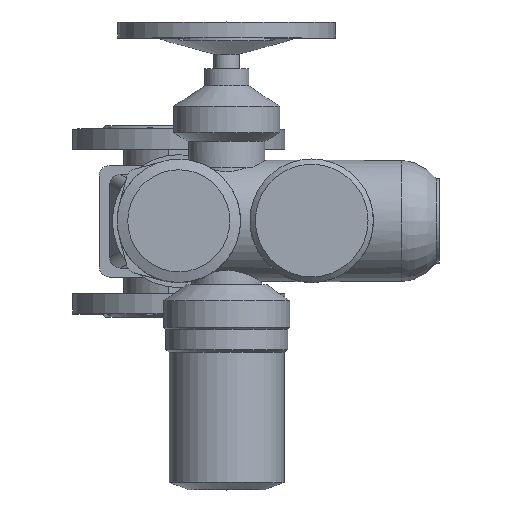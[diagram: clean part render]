
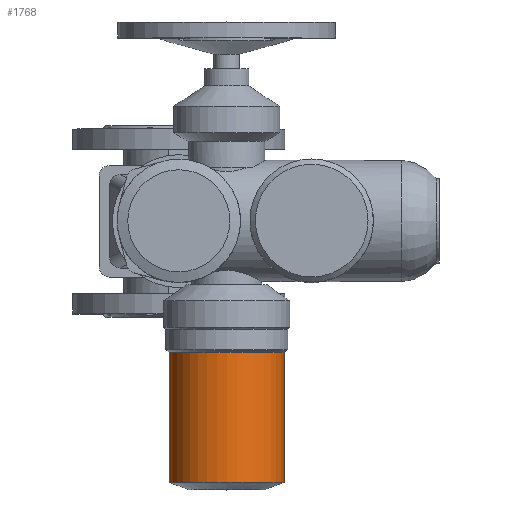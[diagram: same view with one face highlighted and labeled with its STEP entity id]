
A CAD part, top view. The second image highlights one B-rep face of the part: STEP entity #1768.
In plain terms, the highlighted cylindrical face has radius 54 mm (diameter 108 mm), a full revolution.
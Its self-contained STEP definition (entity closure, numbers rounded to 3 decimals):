
#1768=ADVANCED_FACE('',(#3607,#3609),#3611,.T.);
#3607=FACE_OUTER_BOUND('',#3608,.T.);
#3608=EDGE_LOOP('',(#4567));
#3609=FACE_OUTER_BOUND('',#3610,.T.);
#3610=EDGE_LOOP('',(#4568));
#3611=CYLINDRICAL_SURFACE('',#3612,54.);
#3612=AXIS2_PLACEMENT_3D('',#3613,#3614,#3615);
#3613=CARTESIAN_POINT('',(45.,-246.085,302.));
#3614=DIRECTION('',(0.,1.,0.));
#3615=DIRECTION('',(0.,0.,1.));
#4567=ORIENTED_EDGE('',*,*,#5039,.F.);
#4568=ORIENTED_EDGE('',*,*,#5040,.T.);
#5039=EDGE_CURVE('',#5846,#5846,#5847,.T.);
#5040=EDGE_CURVE('',#5848,#5848,#5849,.T.);
#5846=VERTEX_POINT('',#10327);
#5847=CIRCLE('',#10328,54.);
#5848=VERTEX_POINT('',#10332);
#5849=CIRCLE('',#10333,54.);
#10327=CARTESIAN_POINT('',(45.,-123.505,356.));
#10328=AXIS2_PLACEMENT_3D('',#10329,#10330,#10331);
#10329=CARTESIAN_POINT('',(45.,-123.505,302.));
#10330=DIRECTION('',(0.,1.,0.));
#10331=DIRECTION('',(0.,0.,1.));
#10332=CARTESIAN_POINT('',(45.,-246.085,356.));
#10333=AXIS2_PLACEMENT_3D('',#10334,#10335,#10336);
#10334=CARTESIAN_POINT('',(45.,-246.085,302.));
#10335=DIRECTION('',(0.,1.,0.));
#10336=DIRECTION('',(0.,0.,1.));
